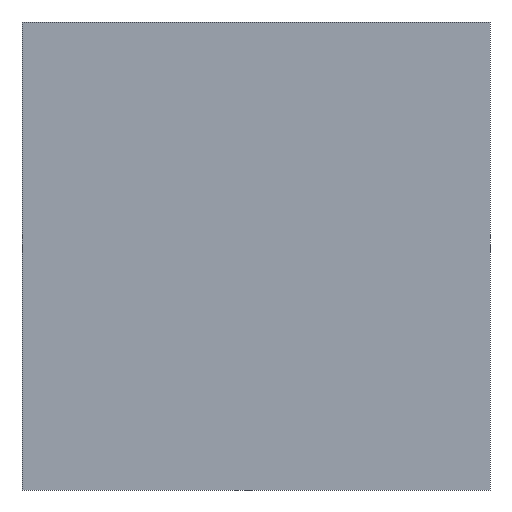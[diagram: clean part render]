
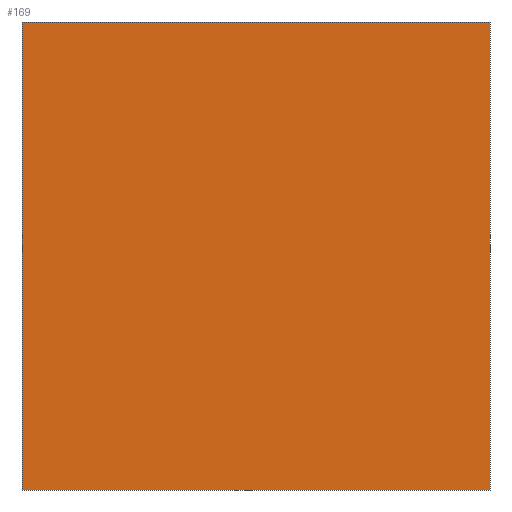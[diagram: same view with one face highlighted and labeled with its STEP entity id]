
A CAD part, front view. The second image highlights one B-rep face of the part: STEP entity #169.
In plain terms, the highlighted planar face has unit normal (0, -1, 0).
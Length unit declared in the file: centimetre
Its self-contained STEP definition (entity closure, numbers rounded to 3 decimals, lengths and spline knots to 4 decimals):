
#1 = CARTESIAN_POINT ( 'NONE',  ( 1000., 0., 0. ) ) ;
#4 = CARTESIAN_POINT ( 'NONE',  ( 0., 0., 1000. ) ) ;
#16 = VECTOR ( 'NONE', #87, 100. ) ;
#21 = VERTEX_POINT ( 'NONE', #295 ) ;
#28 = CARTESIAN_POINT ( 'NONE',  ( 0., 0., 1000. ) ) ;
#31 = DIRECTION ( 'NONE',  ( 0., 1., 0. ) ) ;
#39 = LINE ( 'NONE', #154, #16 ) ;
#55 = FACE_OUTER_BOUND ( 'NONE', #108, .T. ) ;
#60 = LINE ( 'NONE', #303, #270 ) ;
#72 = VECTOR ( 'NONE', #227, 100. ) ;
#87 = DIRECTION ( 'NONE',  ( 1., 0., 0. ) ) ;
#99 = EDGE_CURVE ( 'NONE', #147, #259, #194, .T. ) ;
#108 = EDGE_LOOP ( 'NONE', ( #348, #172, #315, #225 ) ) ;
#121 = DIRECTION ( 'NONE',  ( 0., 0., -1. ) ) ;
#136 = DIRECTION ( 'NONE',  ( 0., 0., 1. ) ) ;
#147 = VERTEX_POINT ( 'NONE', #171 ) ;
#154 = CARTESIAN_POINT ( 'NONE',  ( 0., 0., 1000. ) ) ;
#169 = ADVANCED_FACE ( 'NONE', ( #55 ), #216, .F. ) ;
#171 = CARTESIAN_POINT ( 'NONE',  ( 0., 0., 0. ) ) ;
#172 = ORIENTED_EDGE ( 'NONE', *, *, #273, .F. ) ;
#194 = LINE ( 'NONE', #343, #72 ) ;
#216 = PLANE ( 'NONE',  #306 ) ;
#225 = ORIENTED_EDGE ( 'NONE', *, *, #305, .T. ) ;
#227 = DIRECTION ( 'NONE',  ( 1., 0., 0. ) ) ;
#231 = LINE ( 'NONE', #4, #282 ) ;
#259 = VERTEX_POINT ( 'NONE', #1 ) ;
#270 = VECTOR ( 'NONE', #297, 100. ) ;
#273 = EDGE_CURVE ( 'NONE', #21, #259, #60, .T. ) ;
#282 = VECTOR ( 'NONE', #121, 100. ) ;
#295 = CARTESIAN_POINT ( 'NONE',  ( 1000., 0., 1000. ) ) ;
#297 = DIRECTION ( 'NONE',  ( 0., 0., -1. ) ) ;
#303 = CARTESIAN_POINT ( 'NONE',  ( 1000., 0., 1000. ) ) ;
#305 = EDGE_CURVE ( 'NONE', #308, #147, #231, .T. ) ;
#306 = AXIS2_PLACEMENT_3D ( 'NONE', #28, #31, #136 ) ;
#308 = VERTEX_POINT ( 'NONE', #358 ) ;
#315 = ORIENTED_EDGE ( 'NONE', *, *, #370, .F. ) ;
#343 = CARTESIAN_POINT ( 'NONE',  ( 0., 0., 0. ) ) ;
#348 = ORIENTED_EDGE ( 'NONE', *, *, #99, .T. ) ;
#358 = CARTESIAN_POINT ( 'NONE',  ( 0., 0., 1000. ) ) ;
#370 = EDGE_CURVE ( 'NONE', #308, #21, #39, .T. ) ;
